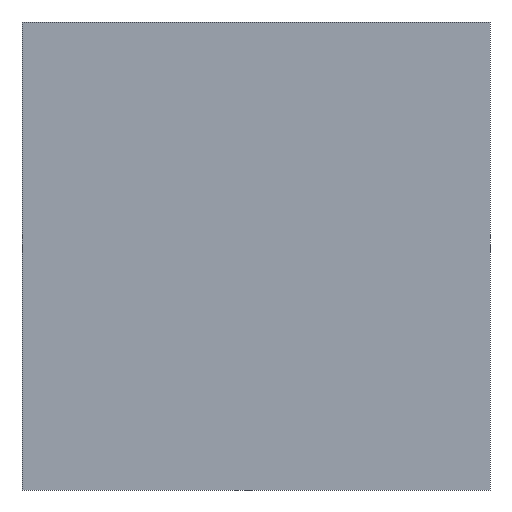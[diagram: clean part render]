
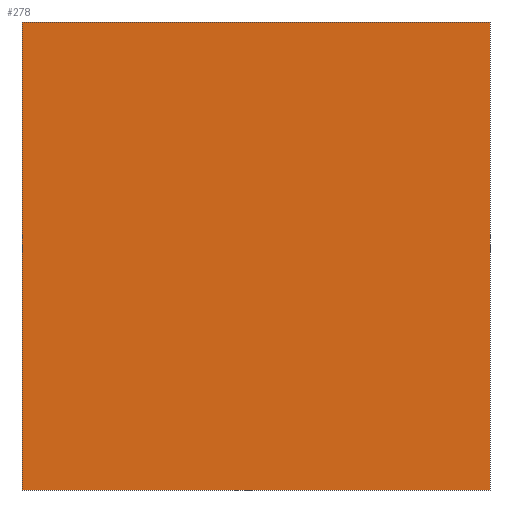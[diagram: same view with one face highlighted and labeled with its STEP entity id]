
A CAD part, front view. The second image highlights one B-rep face of the part: STEP entity #278.
In plain terms, the highlighted planar face has unit normal (0, -1, 0).
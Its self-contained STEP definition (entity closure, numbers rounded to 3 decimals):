
#62 = EDGE_CURVE('',#63,#65,#67,.T.);
#63 = VERTEX_POINT('',#64);
#64 = CARTESIAN_POINT('',(-2.,-1.25,-2.));
#65 = VERTEX_POINT('',#66);
#66 = CARTESIAN_POINT('',(-2.,-1.25,2.));
#67 = SURFACE_CURVE('',#68,(#72,#84),.PCURVE_S1.);
#68 = LINE('',#69,#70);
#69 = CARTESIAN_POINT('',(-2.,-1.25,-2.));
#70 = VECTOR('',#71,1.);
#71 = DIRECTION('',(0.,0.,1.));
#72 = PCURVE('',#73,#78);
#73 = PLANE('',#74);
#74 = AXIS2_PLACEMENT_3D('',#75,#76,#77);
#75 = CARTESIAN_POINT('',(-2.,-1.25,-2.));
#76 = DIRECTION('',(1.,0.,0.));
#77 = DIRECTION('',(0.,0.,1.));
#78 = DEFINITIONAL_REPRESENTATION('',(#79),#83);
#79 = LINE('',#80,#81);
#80 = CARTESIAN_POINT('',(0.,0.));
#81 = VECTOR('',#82,1.);
#82 = DIRECTION('',(1.,0.));
#83 = ( GEOMETRIC_REPRESENTATION_CONTEXT(2) 
PARAMETRIC_REPRESENTATION_CONTEXT() REPRESENTATION_CONTEXT('2D SPACE',''
  ) );
#84 = PCURVE('',#85,#90);
#85 = PLANE('',#86);
#86 = AXIS2_PLACEMENT_3D('',#87,#88,#89);
#87 = CARTESIAN_POINT('',(-2.,-1.25,-2.));
#88 = DIRECTION('',(0.,1.,0.));
#89 = DIRECTION('',(0.,-0.,1.));
#90 = DEFINITIONAL_REPRESENTATION('',(#91),#95);
#91 = LINE('',#92,#93);
#92 = CARTESIAN_POINT('',(0.,0.));
#93 = VECTOR('',#94,1.);
#94 = DIRECTION('',(1.,0.));
#95 = ( GEOMETRIC_REPRESENTATION_CONTEXT(2) 
PARAMETRIC_REPRESENTATION_CONTEXT() REPRESENTATION_CONTEXT('2D SPACE',''
  ) );
#113 = PLANE('',#114);
#114 = AXIS2_PLACEMENT_3D('',#115,#116,#117);
#115 = CARTESIAN_POINT('',(-2.,-1.25,-2.));
#116 = DIRECTION('',(0.,0.,1.));
#117 = DIRECTION('',(1.,0.,-0.));
#167 = PLANE('',#168);
#168 = AXIS2_PLACEMENT_3D('',#169,#170,#171);
#169 = CARTESIAN_POINT('',(-2.,-1.25,2.));
#170 = DIRECTION('',(0.,0.,1.));
#171 = DIRECTION('',(1.,0.,-0.));
#182 = EDGE_CURVE('',#183,#185,#187,.T.);
#183 = VERTEX_POINT('',#184);
#184 = CARTESIAN_POINT('',(2.,-1.25,-2.));
#185 = VERTEX_POINT('',#186);
#186 = CARTESIAN_POINT('',(2.,-1.25,2.));
#187 = SURFACE_CURVE('',#188,(#192,#204),.PCURVE_S1.);
#188 = LINE('',#189,#190);
#189 = CARTESIAN_POINT('',(2.,-1.25,-2.));
#190 = VECTOR('',#191,1.);
#191 = DIRECTION('',(0.,0.,1.));
#192 = PCURVE('',#193,#198);
#193 = PLANE('',#194);
#194 = AXIS2_PLACEMENT_3D('',#195,#196,#197);
#195 = CARTESIAN_POINT('',(2.,-1.25,-2.));
#196 = DIRECTION('',(1.,0.,0.));
#197 = DIRECTION('',(0.,0.,1.));
#198 = DEFINITIONAL_REPRESENTATION('',(#199),#203);
#199 = LINE('',#200,#201);
#200 = CARTESIAN_POINT('',(0.,0.));
#201 = VECTOR('',#202,1.);
#202 = DIRECTION('',(1.,0.));
#203 = ( GEOMETRIC_REPRESENTATION_CONTEXT(2) 
PARAMETRIC_REPRESENTATION_CONTEXT() REPRESENTATION_CONTEXT('2D SPACE',''
  ) );
#204 = PCURVE('',#85,#205);
#205 = DEFINITIONAL_REPRESENTATION('',(#206),#210);
#206 = LINE('',#207,#208);
#207 = CARTESIAN_POINT('',(0.,4.));
#208 = VECTOR('',#209,1.);
#209 = DIRECTION('',(1.,0.));
#210 = ( GEOMETRIC_REPRESENTATION_CONTEXT(2) 
PARAMETRIC_REPRESENTATION_CONTEXT() REPRESENTATION_CONTEXT('2D SPACE',''
  ) );
#278 = ADVANCED_FACE('',(#279),#85,.F.);
#279 = FACE_BOUND('',#280,.F.);
#280 = EDGE_LOOP('',(#281,#302,#303,#324));
#281 = ORIENTED_EDGE('',*,*,#282,.F.);
#282 = EDGE_CURVE('',#63,#183,#283,.T.);
#283 = SURFACE_CURVE('',#284,(#288,#295),.PCURVE_S1.);
#284 = LINE('',#285,#286);
#285 = CARTESIAN_POINT('',(-2.,-1.25,-2.));
#286 = VECTOR('',#287,1.);
#287 = DIRECTION('',(1.,0.,0.));
#288 = PCURVE('',#85,#289);
#289 = DEFINITIONAL_REPRESENTATION('',(#290),#294);
#290 = LINE('',#291,#292);
#291 = CARTESIAN_POINT('',(0.,0.));
#292 = VECTOR('',#293,1.);
#293 = DIRECTION('',(0.,1.));
#294 = ( GEOMETRIC_REPRESENTATION_CONTEXT(2) 
PARAMETRIC_REPRESENTATION_CONTEXT() REPRESENTATION_CONTEXT('2D SPACE',''
  ) );
#295 = PCURVE('',#113,#296);
#296 = DEFINITIONAL_REPRESENTATION('',(#297),#301);
#297 = LINE('',#298,#299);
#298 = CARTESIAN_POINT('',(0.,0.));
#299 = VECTOR('',#300,1.);
#300 = DIRECTION('',(1.,0.));
#301 = ( GEOMETRIC_REPRESENTATION_CONTEXT(2) 
PARAMETRIC_REPRESENTATION_CONTEXT() REPRESENTATION_CONTEXT('2D SPACE',''
  ) );
#302 = ORIENTED_EDGE('',*,*,#62,.T.);
#303 = ORIENTED_EDGE('',*,*,#304,.T.);
#304 = EDGE_CURVE('',#65,#185,#305,.T.);
#305 = SURFACE_CURVE('',#306,(#310,#317),.PCURVE_S1.);
#306 = LINE('',#307,#308);
#307 = CARTESIAN_POINT('',(-2.,-1.25,2.));
#308 = VECTOR('',#309,1.);
#309 = DIRECTION('',(1.,0.,0.));
#310 = PCURVE('',#85,#311);
#311 = DEFINITIONAL_REPRESENTATION('',(#312),#316);
#312 = LINE('',#313,#314);
#313 = CARTESIAN_POINT('',(4.,0.));
#314 = VECTOR('',#315,1.);
#315 = DIRECTION('',(0.,1.));
#316 = ( GEOMETRIC_REPRESENTATION_CONTEXT(2) 
PARAMETRIC_REPRESENTATION_CONTEXT() REPRESENTATION_CONTEXT('2D SPACE',''
  ) );
#317 = PCURVE('',#167,#318);
#318 = DEFINITIONAL_REPRESENTATION('',(#319),#323);
#319 = LINE('',#320,#321);
#320 = CARTESIAN_POINT('',(0.,0.));
#321 = VECTOR('',#322,1.);
#322 = DIRECTION('',(1.,0.));
#323 = ( GEOMETRIC_REPRESENTATION_CONTEXT(2) 
PARAMETRIC_REPRESENTATION_CONTEXT() REPRESENTATION_CONTEXT('2D SPACE',''
  ) );
#324 = ORIENTED_EDGE('',*,*,#182,.F.);
